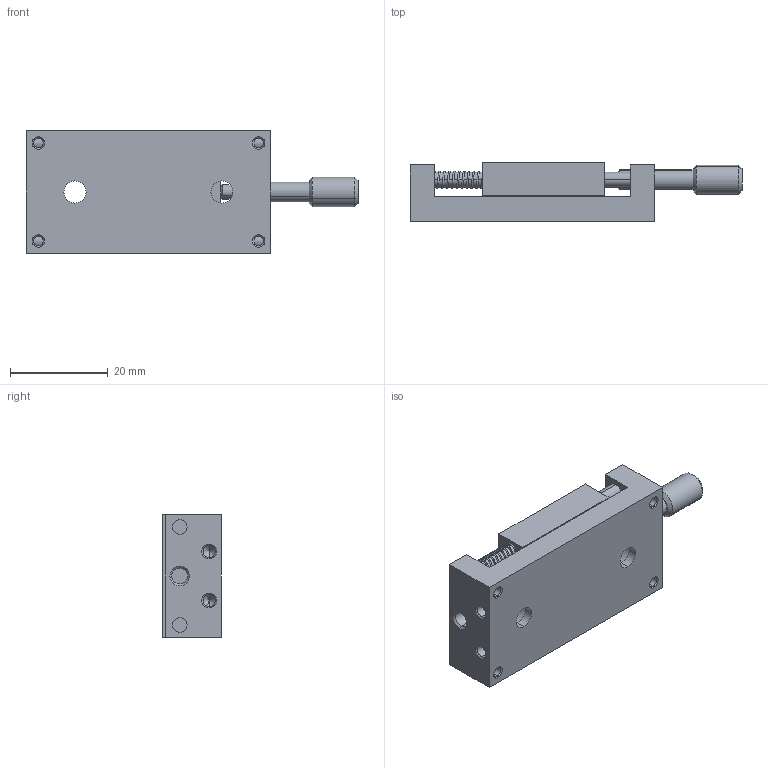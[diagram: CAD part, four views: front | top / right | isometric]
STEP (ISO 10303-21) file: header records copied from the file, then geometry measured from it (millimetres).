
FILE_DESCRIPTION (( 'STEP AP203' ), '1' );
FILE_NAME ('BHJ25.STEP', '2024-02-28T02:08:07', ( 'China' ), ( 'Microsoft' ), 'SwSTEP 2.0', 'SolidWorks 2024', '' );
FILE_SCHEMA (( 'CONFIG_CONTROL_DESIGN' ));
Length unit declared in the file: millimetre
Products named in the file (1): BHJ25
Bounding box: 67.76 x 12 x 25 mm (x, y, z)
Volume: 12050.3 mm3; surface area: 8873.5 mm2
Topology: 7 solids, 7 shells, 132 faces, 302 edges, 186 vertices
Faces by surface type: cylinder 58, cone 40, plane 30, bspline 4
Entity records: 10427 total; most frequent: CARTESIAN_POINT 7233, DIRECTION 696, ORIENTED_EDGE 596, EDGE_CURVE 298, AXIS2_PLACEMENT_3D 281, VERTEX_POINT 186, EDGE_LOOP 178, CIRCLE 152
